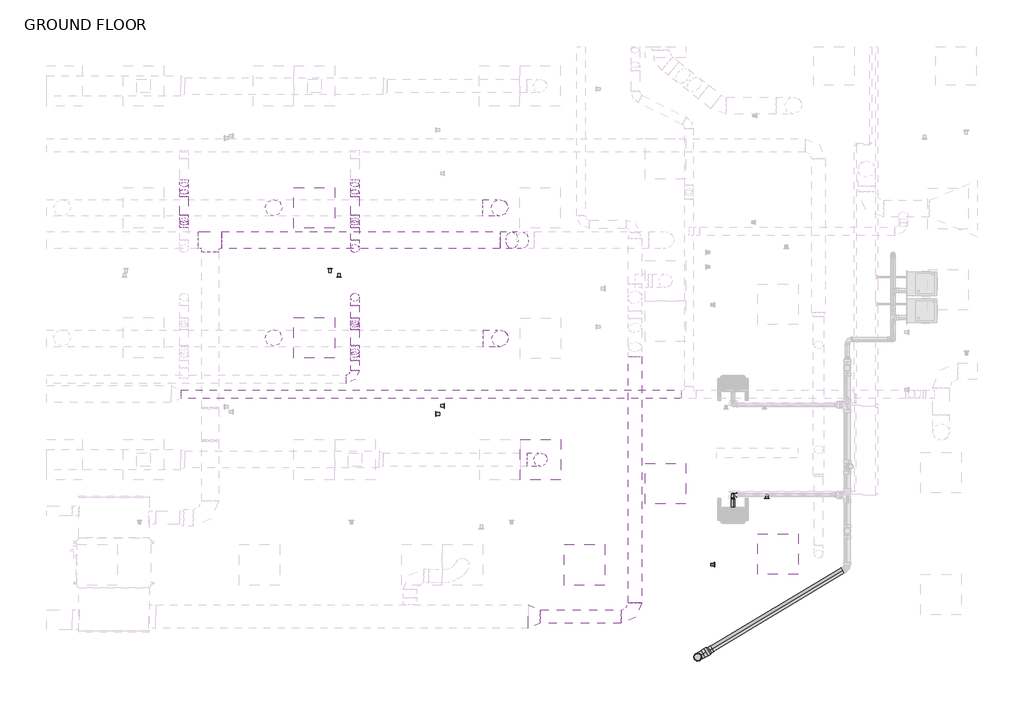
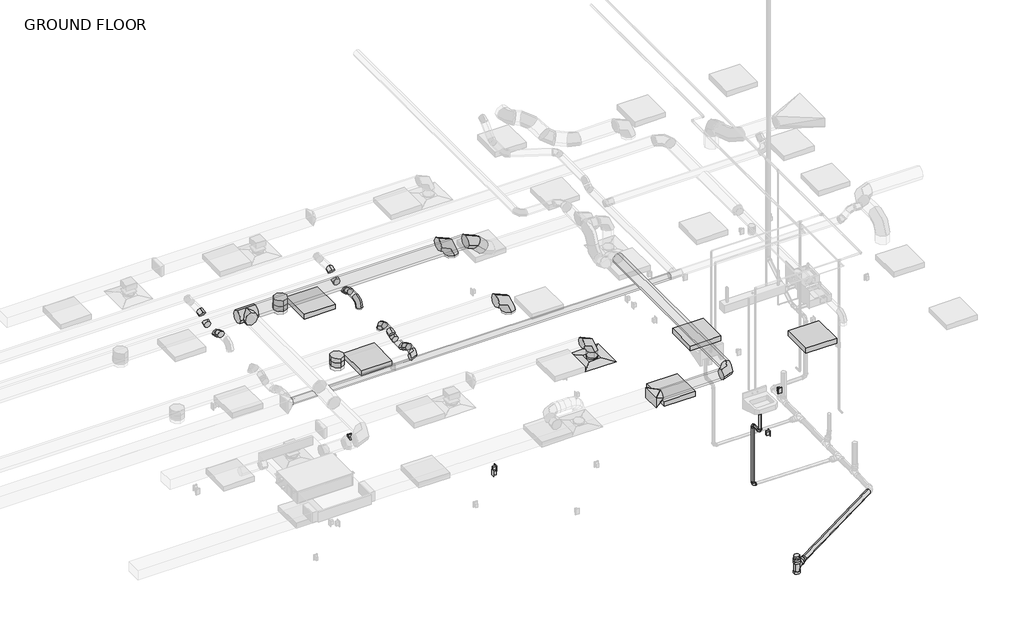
# One storey, part 6 of 21: 24 duct fittings, 24 duct segments, 6 pipe fittings, 5 light fixtures, 5 proxies, 4 pipe segments, 1 air terminal, 1 switching device.
"""IFC4 building model written with IfcOpenShell, lengths in millimetres."""

from ifc_helpers import new_model, si_unit, point, frame, frame_2d, origin, place, context, project, spatial, circle_curve, trimmed, segment, composite_curve, outline, extrude, transform, mapped, element, save
from components import air_terminal_e9020785, duplex_receptacle_countertop_10251bba, rectangular_to_round_transition_angle_45_degree_3a9c6b82, round_elbow_1_d_a253342a, round_elbow_1_d_6fec3262, round_elbow_1_d_c80420c1, round_elbow_1_d_e3dc691b, round_elbow_1_d_ea3dccb8, round_elbow_1_d_538d8ec8, round_takeoff_standard_161717b3, round_takeoff_standard_c386a54e, round_tee_standard_9beeffc8, troffer_corner_insert_2x2_3lamp_e67c7f8f, bend_pvc_sch_40_dwv_standard_56513ac6, bend_pvc_sch_40_dwv_standard_370f4fae, reducer_pvc_sch_40_dwv_standard_58c00515, reducer_pvc_sch_40_dwv_standard_880e498f, tee_sanitary_pvc_sch_40_dwv_standard_6eba9932

model = new_model("IFC4")

# Units and contexts
model_context = context("Model", 3, world=origin())
ifc_project = project(units=[si_unit("LENGTHUNIT", "METRE", prefix="MILLI")], contexts=[model_context])

# Site, building, storey
site = spatial("IfcSite", under=ifc_project)
building = spatial("IfcBuilding", under=site)
storey = spatial("IfcBuildingStorey", under=building, Name="GROUND FLOOR", Elevation=30480.0)

# Air terminal
placement = place(None, origin())
air_terminal_shape = air_terminal_e9020785(model_context)
element("IfcAirTerminal", 1, ObjectType="Supply Diffuser - Rectangular Face Round Neck - Hosted : 24\"x24\" Face 8\" Neck - Hosted", at=placement, inside=storey, context=model_context, shape_type="MappedRepresentation", body=[
    mapped(air_terminal_shape, transform((8335.3295393, -4228.1054995, 33223.2), x_axis=(0.0, -1.0, 0.0), y_axis=(-1.0, 0.0, 0.0), z_axis=(0.0, 0.0, -1.0))),
])

# Proxies
duplex_receptacle_countertop_shape = duplex_receptacle_countertop_10251bba(model_context)
element("IfcBuildingElementProxy", 2, Name="Duplex Receptacle : GFCI", ObjectType="Duplex Receptacle : GFCI", at=placement, inside=storey, context=model_context, shape_type="MappedRepresentation", body=[
    mapped(duplex_receptacle_countertop_shape, transform((11730.8076286, -4809.1304995, 31699.2), x_axis=(1.0, 0.0, 0.0), y_axis=(0.0, 0.0, 1.0), z_axis=(0.0, -1.0, 0.0))),
])
element("IfcBuildingElementProxy", 3, Name="Duplex Receptacle : Standard", ObjectType="Duplex Receptacle : Standard", at=placement, inside=storey, context=model_context, shape_type="MappedRepresentation", body=[
    mapped(duplex_receptacle_countertop_shape, transform((5306.9139298, -1484.9054995, 30937.2), x_axis=(1.0, 0.0, 0.0), y_axis=(0.0, 0.0, 1.0), z_axis=(0.0, -1.0, 0.0))),
])
element("IfcBuildingElementProxy", 4, Name="Duplex Receptacle : Standard", ObjectType="Duplex Receptacle : Standard", at=placement, inside=storey, context=model_context, shape_type="MappedRepresentation", body=[
    mapped(duplex_receptacle_countertop_shape, transform((6763.7045393, -3542.8977984, 30937.2), x_axis=(0.0, -1.0, 0.0), y_axis=(0.0, 0.0, 1.0), z_axis=(-1.0, 0.0, 0.0))),
])
element("IfcBuildingElementProxy", 5, Name="Duplex Receptacle : Standard", ObjectType="Duplex Receptacle : Standard", at=placement, inside=storey, context=model_context, shape_type="MappedRepresentation", body=[
    mapped(duplex_receptacle_countertop_shape, transform((6887.5295393, -3421.6832557, 30937.2), x_axis=(0.0, 1.0, 0.0), y_axis=(0.0, 0.0, 1.0), z_axis=(1.0, 0.0, 0.0))),
])
element("IfcBuildingElementProxy", 6, Name="Duplex Receptacle : Standard", ObjectType="Duplex Receptacle : Standard", at=placement, inside=storey, context=model_context, shape_type="MappedRepresentation", body=[
    mapped(duplex_receptacle_countertop_shape, transform((5174.6798832, -1361.0804995, 30937.2), x_axis=(-1.0, 0.0, 0.0), y_axis=(0.0, 0.0, 1.0), z_axis=(0.0, 1.0, 0.0))),
])

# Duct fittings
rectangular_to_round_transition_angle_45_degree_shape = rectangular_to_round_transition_angle_45_degree_3a9c6b82(model_context)
element("IfcDuctFitting", 7, ObjectType="Rectangular to Round Transition - Angle : 45 Degree", at=placement, inside=storey, context=model_context, shape_type="MappedRepresentation", body=[
    mapped(rectangular_to_round_transition_angle_45_degree_shape, transform((8148.4082034, -6584.4850038, 33877.25), x_axis=(1.0, 0.0, 0.0), y_axis=(0.0, 1.0, 0.0), z_axis=(0.0, 0.0, 1.0))),
])
round_elbow_1_d_shape = round_elbow_1_d_a253342a(model_context)
element("IfcDuctFitting", 8, ObjectType="Round Elbow : 1 D", at=placement, inside=storey, context=model_context, shape_type="MappedRepresentation", body=[
    mapped(round_elbow_1_d_shape, transform((9751.3795393, -6584.4850038, 33877.25), x_axis=(1.0, 0.0, 0.0), y_axis=(0.0, 1.0, 0.0), z_axis=(0.0, 0.0, 1.0))),
])
element("IfcDuctFitting", 9, ObjectType="Round Elbow : 1 D", at=placement, inside=storey, context=model_context, shape_type="MappedRepresentation", body=[
    mapped(round_elbow_1_d_shape, transform((8335.3295393, -4228.1054995, 33604.2), x_axis=(0.0, 0.0, 1.0), y_axis=(-1.0, 0.0, 0.0), z_axis=(0.0, -1.0, 0.0))),
])
round_elbow_1_d_2_shape = round_elbow_1_d_6fec3262(model_context)
element("IfcDuctFitting", 10, ObjectType="Round Elbow : 1 D", at=placement, inside=storey, context=model_context, shape_type="MappedRepresentation", body=[
    mapped(round_elbow_1_d_2_shape, transform((7725.7295393, -2407.6759121, 33617.69375), x_axis=(0.0, 0.0, 1.0), y_axis=(-1.0, 0.0, 0.0), z_axis=(0.0, -1.0, 0.0))),
])
element("IfcDuctFitting", 11, ObjectType="Round Elbow : 1 D", at=placement, inside=storey, context=model_context, shape_type="MappedRepresentation", body=[
    mapped(round_elbow_1_d_2_shape, transform((7719.2671727, -446.6804995, 33617.69375), x_axis=(0.0, 0.0, 1.0), y_axis=(-1.0, 0.0, 0.0), z_axis=(0.0, -1.0, 0.0))),
])
round_elbow_1_d_3_shape = round_elbow_1_d_c80420c1(model_context)
element("IfcDuctFitting", 12, ObjectType="Round Elbow : 1 D", at=placement, inside=storey, context=model_context, shape_type="MappedRepresentation", body=[
    mapped(round_elbow_1_d_3_shape, transform((5547.6681472, -3019.0145579, 33528.0), x_axis=(1.0, 0.0, 0.0), y_axis=(0.0, 1.0, 0.0), z_axis=(0.0, 0.0, 1.0))),
])
element("IfcDuctFitting", 13, ObjectType="Round Elbow : 1 D", at=placement, inside=storey, context=model_context, shape_type="MappedRepresentation", body=[
    mapped(round_elbow_1_d_3_shape, transform((5547.6681472, -1789.7054995, 33477.2), x_axis=(0.0, 0.0, 1.0), y_axis=(0.0, -1.0, 0.0), z_axis=(1.0, 0.0, 0.0))),
])
element("IfcDuctFitting", 14, ObjectType="Round Elbow : 1 D", at=placement, inside=storey, context=model_context, shape_type="MappedRepresentation", body=[
    mapped(round_elbow_1_d_3_shape, transform((5547.6681472, -1056.2804995, 33477.2), x_axis=(0.0, -1.0, 0.0), y_axis=(0.0, 0.0, -1.0), z_axis=(1.0, 0.0, 0.0))),
])
round_elbow_1_d_4_shape = round_elbow_1_d_e3dc691b(model_context)
element("IfcDuctFitting", 15, ObjectType="Round Elbow : 1 D", at=placement, inside=storey, context=model_context, shape_type="MappedRepresentation", body=[
    mapped(round_elbow_1_d_4_shape, transform((5547.6681472, -2571.0260053, 33410.2114474), x_axis=(0.0, 0.7071067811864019, -0.7071067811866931), y_axis=(0.0, 0.7071067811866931, 0.7071067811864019), z_axis=(1.0, 0.0, 0.0))),
])
element("IfcDuctFitting", 16, ObjectType="Round Elbow : 1 D", at=placement, inside=storey, context=model_context, shape_type="MappedRepresentation", body=[
    mapped(round_elbow_1_d_4_shape, transform((5547.6681472, -2688.8145579, 33528.0), x_axis=(0.0, -0.7071067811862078, 0.7071067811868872), y_axis=(0.0, -0.7071067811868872, -0.7071067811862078), z_axis=(1.0, 0.0, 0.0))),
])
round_elbow_1_d_5_shape = round_elbow_1_d_ea3dccb8(model_context)
element("IfcDuctFitting", 17, ObjectType="Round Elbow : 1 D", at=placement, inside=storey, context=model_context, shape_type="MappedRepresentation", body=[
    mapped(round_elbow_1_d_5_shape, transform((7831.7019534, -932.4554995, 33883.6), x_axis=(1.0, 0.0, 0.0), y_axis=(0.0, 0.0, -1.0), z_axis=(0.0, 1.0, 0.0))),
])
round_elbow_1_d_6_shape = round_elbow_1_d_538d8ec8(model_context)
element("IfcDuctFitting", 18, ObjectType="Round Elbow : 1 D", at=placement, inside=storey, context=model_context, shape_type="MappedRepresentation", body=[
    mapped(round_elbow_1_d_6_shape, transform((2982.2795393, -703.4357216, 33477.2), x_axis=(0.0, 1.0, 0.0), y_axis=(0.0, 0.0, -1.0), z_axis=(-1.0, 0.0, 0.0))),
])
element("IfcDuctFitting", 19, ObjectType="Round Elbow : 1 D", at=placement, inside=storey, context=model_context, shape_type="MappedRepresentation", body=[
    mapped(round_elbow_1_d_6_shape, transform((2982.2795393, -599.403412, 33404.3557926), x_axis=(0.0, 0.8191520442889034, -0.5735764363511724), y_axis=(0.0, 0.5735764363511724, 0.8191520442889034), z_axis=(1.0, 0.0, 0.0))),
])
element("IfcDuctFitting", 20, ObjectType="Round Elbow : 1 D", at=placement, inside=storey, context=model_context, shape_type="MappedRepresentation", body=[
    mapped(round_elbow_1_d_6_shape, transform((2982.2795393, -240.3054995, 33404.3557926), x_axis=(0.0, 1.0, 0.0), y_axis=(0.0, 0.0, 1.0), z_axis=(1.0, 0.0, 0.0))),
])
element("IfcDuctFitting", 21, ObjectType="Round Elbow : 1 D", at=placement, inside=storey, context=model_context, shape_type="MappedRepresentation", body=[
    mapped(round_elbow_1_d_6_shape, transform((2982.2795393, -63.7232711, 33528.0), x_axis=(0.0, 0.8191520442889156, 0.5735764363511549), y_axis=(0.0, 0.5735764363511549, -0.8191520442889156), z_axis=(-1.0, 0.0, 0.0))),
])
element("IfcDuctFitting", 22, ObjectType="Round Elbow : 1 D", at=placement, inside=storey, context=model_context, shape_type="MappedRepresentation", body=[
    mapped(round_elbow_1_d_6_shape, transform((5547.6681472, -599.403412, 33404.3557926), x_axis=(0.0, 0.8191520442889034, -0.5735764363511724), y_axis=(0.0, 0.5735764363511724, 0.8191520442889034), z_axis=(1.0, 0.0, 0.0))),
])
element("IfcDuctFitting", 23, ObjectType="Round Elbow : 1 D", at=placement, inside=storey, context=model_context, shape_type="MappedRepresentation", body=[
    mapped(round_elbow_1_d_6_shape, transform((5547.6681472, -240.3054995, 33404.3557926), x_axis=(0.0, 1.0, 0.0), y_axis=(0.0, 0.0, 1.0), z_axis=(1.0, 0.0, 0.0))),
])
element("IfcDuctFitting", 24, ObjectType="Round Elbow : 1 D", at=placement, inside=storey, context=model_context, shape_type="MappedRepresentation", body=[
    mapped(round_elbow_1_d_6_shape, transform((5547.6681472, -63.7232711, 33528.0), x_axis=(0.0, 0.8191520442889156, 0.5735764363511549), y_axis=(0.0, 0.5735764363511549, -0.8191520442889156), z_axis=(-1.0, 0.0, 0.0))),
])
element("IfcDuctFitting", 25, ObjectType="Round Elbow : 1 D", at=placement, inside=storey, context=model_context, shape_type="MappedRepresentation", body=[
    mapped(round_elbow_1_d_6_shape, transform((5547.6681472, -2238.2198452, 33410.2114474), x_axis=(0.0, -0.8191520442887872, -0.5735764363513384), y_axis=(0.0, -0.5735764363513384, 0.8191520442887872), z_axis=(-1.0, 0.0, 0.0))),
])
element("IfcDuctFitting", 26, ObjectType="Round Elbow : 1 D", at=placement, inside=storey, context=model_context, shape_type="MappedRepresentation", body=[
    mapped(round_elbow_1_d_6_shape, transform((5547.6681472, -2142.5502773, 33477.2), x_axis=(0.0, 0.8191520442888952, 0.5735764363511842), y_axis=(0.0, 0.5735764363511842, -0.8191520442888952), z_axis=(-1.0, 0.0, 0.0))),
])
element("IfcDuctFitting", 27, ObjectType="Round Elbow : 1 D", at=placement, inside=storey, context=model_context, shape_type="MappedRepresentation", body=[
    mapped(round_elbow_1_d_6_shape, transform((5547.6681472, -703.4357216, 33477.2), x_axis=(0.0, -0.8191520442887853, 0.573576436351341), y_axis=(0.0, -0.573576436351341, -0.8191520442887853), z_axis=(1.0, 0.0, 0.0))),
])
round_takeoff_standard_shape = round_takeoff_standard_161717b3(model_context)
element("IfcDuctFitting", 28, ObjectType="Round Takeoff : Standard", at=placement, inside=storey, context=model_context, shape_type="MappedRepresentation", body=[
    mapped(round_takeoff_standard_shape, transform((4328.4681472, -2399.3054995, 33490.969892), x_axis=(0.0, 0.0, -1.0), y_axis=(-1.0, 0.0, 0.0), z_axis=(0.0, 1.0, 0.0))),
])
round_takeoff_standard_2_shape = round_takeoff_standard_c386a54e(model_context)
element("IfcDuctFitting", 29, ObjectType="Round Takeoff : Standard", at=placement, inside=storey, context=model_context, shape_type="MappedRepresentation", body=[
    mapped(round_takeoff_standard_2_shape, transform((4328.4681472, -446.6804995, 33490.69375), x_axis=(0.0, 0.0, -1.0), y_axis=(-1.0, 0.0, 0.0), z_axis=(0.0, 1.0, 0.0))),
])
round_tee_standard_shape = round_tee_standard_9beeffc8(model_context)
element("IfcDuctFitting", 30, ObjectType="Round Tee : Standard", at=placement, inside=storey, context=model_context, shape_type="MappedRepresentation", body=[
    mapped(round_tee_standard_shape, transform((3373.2082034, -932.4554995, 33883.6), x_axis=(1.0, 0.0, 0.0), y_axis=(0.0, 1.0, 0.0), z_axis=(0.0, 0.0, 1.0))),
])

# Duct segments
element("IfcDuctSegment", 31, ObjectType="Taps / Short Radius", at=placement, inside=storey, context=model_context, shape_type="SweptSolid", body=[
    extrude(outline(composite_curve([segment(trimmed(circle_curve(frame_2d((-6584.4850038, 33877.25)), 101.6), [point((-6686.0850038, 33877.25))], [point((-6584.4850038, 33978.85))], False, "CARTESIAN"), True, "CONTINUOUS"), segment(trimmed(circle_curve(frame_2d((-6584.4850038, 33877.25)), 101.6), [point((-6584.4850038, 33978.85))], [point((-6482.8850038, 33877.25))], False, "CARTESIAN"), True, "CONTINUOUS"), segment(trimmed(circle_curve(frame_2d((-6584.4850038, 33877.25)), 101.6), [point((-6482.8850038, 33877.25))], [point((-6584.4850038, 33775.65))], False, "CARTESIAN"), True, "CONTINUOUS"), segment(trimmed(circle_curve(frame_2d((-6584.4850038, 33877.25)), 101.6), [point((-6584.4850038, 33775.65))], [point((-6686.0850038, 33877.25))], False, "CARTESIAN"), True, "CONTINUOUS")], self_intersect=False)), frame((8332.3712769, 0.0, 0.0), z_axis=(1.0, 0.0, 0.0), x_axis=(0.0, 1.0, 0.0)), (0.0, 0.0, 1.0), 1215.8082624),
])
element("IfcDuctSegment", 32, ObjectType="Taps / Short Radius", at=placement, inside=storey, context=model_context, shape_type="SweptSolid", body=[
    extrude(outline(composite_curve([segment(trimmed(circle_curve(frame_2d((8335.3295393, -4228.1054995)), 101.6), [point((8335.3295393, -4126.5054995))], [point((8436.9295393, -4228.1054995))], False, "CARTESIAN"), True, "CONTINUOUS"), segment(trimmed(circle_curve(frame_2d((8335.3295393, -4228.1054995)), 101.6), [point((8436.9295393, -4228.1054995))], [point((8335.3295393, -4329.7054995))], False, "CARTESIAN"), True, "CONTINUOUS"), segment(trimmed(circle_curve(frame_2d((8335.3295393, -4228.1054995)), 101.6), [point((8335.3295393, -4329.7054995))], [point((8233.7295393, -4228.1054995))], False, "CARTESIAN"), True, "CONTINUOUS"), segment(trimmed(circle_curve(frame_2d((8335.3295393, -4228.1054995)), 101.6), [point((8233.7295393, -4228.1054995))], [point((8335.3295393, -4126.5054995))], False, "CARTESIAN"), True, "CONTINUOUS")], self_intersect=False)), frame((0.0, 0.0, 33277.175), z_axis=(0.0, 0.0, 1.0), x_axis=(1.0, 0.0, 0.0)), (0.0, 0.0, 1.0), 123.825),
])
element("IfcDuctSegment", 33, ObjectType="Taps / Short Radius", at=placement, inside=storey, context=model_context, shape_type="SweptSolid", body=[
    extrude(outline(composite_curve([segment(trimmed(circle_curve(frame_2d((-932.4554995, 33883.6)), 127.0), [point((-1059.4554995, 33883.6))], [point((-932.4554995, 34010.6))], False, "CARTESIAN"), True, "CONTINUOUS"), segment(trimmed(circle_curve(frame_2d((-932.4554995, 33883.6)), 127.0), [point((-932.4554995, 34010.6))], [point((-805.4554995, 33883.6))], False, "CARTESIAN"), True, "CONTINUOUS"), segment(trimmed(circle_curve(frame_2d((-932.4554995, 33883.6)), 127.0), [point((-805.4554995, 33883.6))], [point((-932.4554995, 33756.6))], False, "CARTESIAN"), True, "CONTINUOUS"), segment(trimmed(circle_curve(frame_2d((-932.4554995, 33883.6)), 127.0), [point((-932.4554995, 33756.6))], [point((-1059.4554995, 33883.6))], False, "CARTESIAN"), True, "CONTINUOUS")], self_intersect=False)), frame((3551.0082034, 0.0, 0.0), z_axis=(1.0, 0.0, 0.0), x_axis=(0.0, 1.0, 0.0)), (0.0, 0.0, 1.0), 4175.4835052),
])
element("IfcDuctSegment", 34, ObjectType="Taps / Short Radius", at=placement, inside=storey, context=model_context, shape_type="SweptSolid", body=[
    extrude(outline(composite_curve([segment(trimmed(circle_curve(frame_2d((0.0, -127.0)), 127.0), [point((0.0, -254.0))], [point((-127.0, -127.0))], False, "CARTESIAN"), True, "CONTINUOUS"), segment(trimmed(circle_curve(frame_2d((0.0, -127.0)), 127.0), [point((-127.0, -127.0))], [point((0.0, 0.0))], False, "CARTESIAN"), True, "CONTINUOUS"), segment(trimmed(circle_curve(frame_2d((0.0, -127.0)), 127.0), [point((0.0, 0.0))], [point((127.0, -127.0))], False, "CARTESIAN"), True, "CONTINUOUS"), segment(trimmed(circle_curve(frame_2d((0.0, -127.0)), 127.0), [point((127.0, -127.0))], [point((0.0, -254.0))], False, "CARTESIAN"), True, "CONTINUOUS")], self_intersect=False)), frame((8062.1070759, -805.4554995, 33653.1948776), z_axis=(-0.7071067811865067, 0.0, 0.7071067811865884), x_axis=(0.7071067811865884, 0.0, 0.7071067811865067)), (0.0, 0.0, 1.0), 220.6318041),
])
element("IfcDuctSegment", 35, ObjectType="Taps / Short Radius", at=placement, inside=storey, context=model_context, shape_type="SweptSolid", body=[
    extrude(outline(composite_curve([segment(trimmed(circle_curve(frame_2d((4328.4681472, -2399.3054995)), 127.0), [point((4201.4681472, -2399.3054995))], [point((4328.4681472, -2272.3054995))], False, "CARTESIAN"), True, "CONTINUOUS"), segment(trimmed(circle_curve(frame_2d((4328.4681472, -2399.3054995)), 127.0), [point((4328.4681472, -2272.3054995))], [point((4455.4681472, -2399.3054995))], False, "CARTESIAN"), True, "CONTINUOUS"), segment(trimmed(circle_curve(frame_2d((4328.4681472, -2399.3054995)), 127.0), [point((4455.4681472, -2399.3054995))], [point((4328.4681472, -2526.3054995))], False, "CARTESIAN"), True, "CONTINUOUS"), segment(trimmed(circle_curve(frame_2d((4328.4681472, -2399.3054995)), 127.0), [point((4328.4681472, -2526.3054995))], [point((4201.4681472, -2399.3054995))], False, "CARTESIAN"), True, "CONTINUOUS")], self_intersect=False)), frame((0.0, 0.0, 33324.8), z_axis=(0.0, 0.0, 1.0), x_axis=(1.0, 0.0, 0.0)), (0.0, 0.0, 1.0), 64.569892),
])
element("IfcDuctSegment", 36, ObjectType="Taps / Short Radius", at=placement, inside=storey, context=model_context, shape_type="SweptSolid", body=[
    extrude(outline(composite_curve([segment(trimmed(circle_curve(frame_2d((7725.7295393, -2407.6759121)), 127.0), [point((7725.7295393, -2280.6759121))], [point((7852.7295393, -2407.6759121))], False, "CARTESIAN"), True, "CONTINUOUS"), segment(trimmed(circle_curve(frame_2d((7725.7295393, -2407.6759121)), 127.0), [point((7852.7295393, -2407.6759121))], [point((7725.7295393, -2534.6759121))], False, "CARTESIAN"), True, "CONTINUOUS"), segment(trimmed(circle_curve(frame_2d((7725.7295393, -2407.6759121)), 127.0), [point((7725.7295393, -2534.6759121))], [point((7598.7295393, -2407.6759121))], False, "CARTESIAN"), True, "CONTINUOUS"), segment(trimmed(circle_curve(frame_2d((7725.7295393, -2407.6759121)), 127.0), [point((7598.7295393, -2407.6759121))], [point((7725.7295393, -2280.6759121))], False, "CARTESIAN"), True, "CONTINUOUS")], self_intersect=False)), frame((0.0, 0.0, 33324.8), z_axis=(0.0, 0.0, 1.0), x_axis=(1.0, 0.0, 0.0)), (0.0, 0.0, 1.0), 38.89375),
])
element("IfcDuctSegment", 37, ObjectType="Taps / Short Radius", at=placement, inside=storey, context=model_context, shape_type="SweptSolid", body=[
    extrude(outline(composite_curve([segment(trimmed(circle_curve(frame_2d((7719.2671727, -446.6804995)), 127.0), [point((7719.2671727, -319.6804995))], [point((7846.2671727, -446.6804995))], False, "CARTESIAN"), True, "CONTINUOUS"), segment(trimmed(circle_curve(frame_2d((7719.2671727, -446.6804995)), 127.0), [point((7846.2671727, -446.6804995))], [point((7719.2671727, -573.6804995))], False, "CARTESIAN"), True, "CONTINUOUS"), segment(trimmed(circle_curve(frame_2d((7719.2671727, -446.6804995)), 127.0), [point((7719.2671727, -573.6804995))], [point((7592.2671727, -446.6804995))], False, "CARTESIAN"), True, "CONTINUOUS"), segment(trimmed(circle_curve(frame_2d((7719.2671727, -446.6804995)), 127.0), [point((7592.2671727, -446.6804995))], [point((7719.2671727, -319.6804995))], False, "CARTESIAN"), True, "CONTINUOUS")], self_intersect=False)), frame((0.0, 0.0, 33324.8), z_axis=(0.0, 0.0, 1.0), x_axis=(1.0, 0.0, 0.0)), (0.0, 0.0, 1.0), 38.89375),
])
element("IfcDuctSegment", 38, ObjectType="Taps / Short Radius", at=placement, inside=storey, context=model_context, shape_type="SweptSolid", body=[
    extrude(outline(composite_curve([segment(trimmed(circle_curve(frame_2d((4328.4681472, -446.6804995)), 127.0), [point((4201.4681472, -446.6804995))], [point((4328.4681472, -319.6804995))], False, "CARTESIAN"), True, "CONTINUOUS"), segment(trimmed(circle_curve(frame_2d((4328.4681472, -446.6804995)), 127.0), [point((4328.4681472, -319.6804995))], [point((4455.4681472, -446.6804995))], False, "CARTESIAN"), True, "CONTINUOUS"), segment(trimmed(circle_curve(frame_2d((4328.4681472, -446.6804995)), 127.0), [point((4455.4681472, -446.6804995))], [point((4328.4681472, -573.6804995))], False, "CARTESIAN"), True, "CONTINUOUS"), segment(trimmed(circle_curve(frame_2d((4328.4681472, -446.6804995)), 127.0), [point((4328.4681472, -573.6804995))], [point((4201.4681472, -446.6804995))], False, "CARTESIAN"), True, "CONTINUOUS")], self_intersect=False)), frame((0.0, 0.0, 33324.8), z_axis=(0.0, 0.0, 1.0), x_axis=(1.0, 0.0, 0.0)), (0.0, 0.0, 1.0), 64.29375),
])
element("IfcDuctSegment", 39, ObjectType="Taps / Short Radius", at=placement, inside=storey, context=model_context, shape_type="SweptSolid", body=[
    extrude(outline(composite_curve([segment(trimmed(circle_curve(frame_2d((-3245.6216457, 33602.867541)), 63.5), [point((-3309.1216457, 33602.867541))], [point((-3245.6216457, 33666.367541))], False, "CARTESIAN"), True, "CONTINUOUS"), segment(trimmed(circle_curve(frame_2d((-3245.6216457, 33602.867541)), 63.5), [point((-3245.6216457, 33666.367541))], [point((-3182.1216457, 33602.867541))], False, "CARTESIAN"), True, "CONTINUOUS"), segment(trimmed(circle_curve(frame_2d((-3245.6216457, 33602.867541)), 63.5), [point((-3182.1216457, 33602.867541))], [point((-3245.6216457, 33539.367541))], False, "CARTESIAN"), True, "CONTINUOUS"), segment(trimmed(circle_curve(frame_2d((-3245.6216457, 33602.867541)), 63.5), [point((-3245.6216457, 33539.367541))], [point((-3309.1216457, 33602.867541))], False, "CARTESIAN"), True, "CONTINUOUS")], self_intersect=False)), frame((2940.5577502, 0.0, 0.0), z_axis=(1.0, 0.0, 0.0), x_axis=(0.0, 1.0, 0.0)), (0.0, 0.0, 1.0), 7505.7),
])
element("IfcDuctSegment", 40, ObjectType="Taps / Short Radius", at=placement, inside=storey, context=model_context, shape_type="SweptSolid", body=[
    extrude(outline(composite_curve([segment(trimmed(circle_curve(frame_2d((0.0, -63.5)), 63.5), [point((63.5, -63.5))], [point((0.0, -127.0000001))], False, "CARTESIAN"), True, "CONTINUOUS"), segment(trimmed(circle_curve(frame_2d((0.0, -63.5)), 63.5), [point((0.0, -127.0000001))], [point((-63.5, -63.5))], False, "CARTESIAN"), True, "CONTINUOUS"), segment(trimmed(circle_curve(frame_2d((0.0, -63.5)), 63.5), [point((-63.5, -63.5))], [point((0.0, 0.0))], False, "CARTESIAN"), True, "CONTINUOUS"), segment(trimmed(circle_curve(frame_2d((0.0, -63.5)), 63.5), [point((0.0, 0.0))], [point((63.5, -63.5))], False, "CARTESIAN"), True, "CONTINUOUS")], self_intersect=False)), frame((2982.2795393, -595.7825695, 33479.3396378), z_axis=(0.0, -0.8191520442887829, 0.5735764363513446), x_axis=(1.0, 0.0, 0.0)), (0.0, 0.0, 1.0), 46.9141076),
])
element("IfcDuctSegment", 41, ObjectType="Taps / Short Radius", at=placement, inside=storey, context=model_context, shape_type="SweptSolid", body=[
    extrude(outline(composite_curve([segment(trimmed(circle_curve(frame_2d((33404.3557926, 2982.2795393)), 63.5), [point((33404.3557926, 3045.7795393))], [point((33467.8557926, 2982.2795393))], False, "CARTESIAN"), True, "CONTINUOUS"), segment(trimmed(circle_curve(frame_2d((33404.3557926, 2982.2795393)), 63.5), [point((33467.8557926, 2982.2795393))], [point((33404.3557926, 2918.7795393))], False, "CARTESIAN"), True, "CONTINUOUS"), segment(trimmed(circle_curve(frame_2d((33404.3557926, 2982.2795393)), 63.5), [point((33404.3557926, 2918.7795393))], [point((33340.8557926, 2982.2795393))], False, "CARTESIAN"), True, "CONTINUOUS"), segment(trimmed(circle_curve(frame_2d((33404.3557926, 2982.2795393)), 63.5), [point((33340.8557926, 2982.2795393))], [point((33404.3557926, 3045.7795393))], False, "CARTESIAN"), True, "CONTINUOUS")], self_intersect=False)), frame((0.0, -559.3604658, 0.0), z_axis=(0.0, 1.0, 0.0), x_axis=(0.0, 0.0, 1.0)), (0.0, 0.0, 1.0), 279.0120202),
])
element("IfcDuctSegment", 42, ObjectType="Taps / Short Radius", at=placement, inside=storey, context=model_context, shape_type="SweptSolid", body=[
    extrude(outline(composite_curve([segment(trimmed(circle_curve(frame_2d((0.0, 63.5)), 63.5), [point((63.5, 63.5))], [point((0.0, 0.0))], False, "CARTESIAN"), True, "CONTINUOUS"), segment(trimmed(circle_curve(frame_2d((0.0, 63.5)), 63.5), [point((0.0, 0.0))], [point((-63.5, 63.5))], False, "CARTESIAN"), True, "CONTINUOUS"), segment(trimmed(circle_curve(frame_2d((0.0, 63.5)), 63.5), [point((-63.5, 63.5))], [point((0.0, 127.0000001))], False, "CARTESIAN"), True, "CONTINUOUS"), segment(trimmed(circle_curve(frame_2d((0.0, 63.5)), 63.5), [point((0.0, 127.0000001))], [point((63.5, 63.5))], False, "CARTESIAN"), True, "CONTINUOUS")], self_intersect=False)), frame((2982.2795393, -243.926342, 33479.3396378), z_axis=(0.0, 0.81915204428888, 0.5735764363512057), x_axis=(1.0, 0.0, 0.0)), (0.0, 0.0, 1.0), 135.4812048),
])
element("IfcDuctSegment", 43, ObjectType="Taps / Short Radius", at=placement, inside=storey, context=model_context, shape_type="SweptSolid", body=[
    extrude(outline(composite_curve([segment(trimmed(circle_curve(frame_2d((0.0, -63.5)), 63.5), [point((63.5, -63.5))], [point((0.0, -127.0000001))], False, "CARTESIAN"), True, "CONTINUOUS"), segment(trimmed(circle_curve(frame_2d((0.0, -63.5)), 63.5), [point((0.0, -127.0000001))], [point((-63.5, -63.5))], False, "CARTESIAN"), True, "CONTINUOUS"), segment(trimmed(circle_curve(frame_2d((0.0, -63.5)), 63.5), [point((-63.5, -63.5))], [point((0.0, 0.0))], False, "CARTESIAN"), True, "CONTINUOUS"), segment(trimmed(circle_curve(frame_2d((0.0, -63.5)), 63.5), [point((0.0, 0.0))], [point((63.5, -63.5))], False, "CARTESIAN"), True, "CONTINUOUS")], self_intersect=False)), frame((5547.6681472, -595.7825695, 33479.3396378), z_axis=(0.0, -0.819152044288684, 0.5735764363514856), x_axis=(1.0, 0.0, 0.0)), (0.0, 0.0, 1.0), 46.9141076),
])
element("IfcDuctSegment", 44, ObjectType="Taps / Short Radius", at=placement, inside=storey, context=model_context, shape_type="SweptSolid", body=[
    extrude(outline(composite_curve([segment(trimmed(circle_curve(frame_2d((33404.3557926, 5547.6681472)), 63.5), [point((33404.3557926, 5611.1681472))], [point((33467.8557926, 5547.6681472))], False, "CARTESIAN"), True, "CONTINUOUS"), segment(trimmed(circle_curve(frame_2d((33404.3557926, 5547.6681472)), 63.5), [point((33467.8557926, 5547.6681472))], [point((33404.3557926, 5484.1681472))], False, "CARTESIAN"), True, "CONTINUOUS"), segment(trimmed(circle_curve(frame_2d((33404.3557926, 5547.6681472)), 63.5), [point((33404.3557926, 5484.1681472))], [point((33340.8557926, 5547.6681472))], False, "CARTESIAN"), True, "CONTINUOUS"), segment(trimmed(circle_curve(frame_2d((33404.3557926, 5547.6681472)), 63.5), [point((33340.8557926, 5547.6681472))], [point((33404.3557926, 5611.1681472))], False, "CARTESIAN"), True, "CONTINUOUS")], self_intersect=False)), frame((0.0, -559.3604658, 0.0), z_axis=(0.0, 1.0, 0.0), x_axis=(0.0, 0.0, 1.0)), (0.0, 0.0, 1.0), 279.0120202),
])
element("IfcDuctSegment", 45, ObjectType="Taps / Short Radius", at=placement, inside=storey, context=model_context, shape_type="SweptSolid", body=[
    extrude(outline(composite_curve([segment(trimmed(circle_curve(frame_2d((0.0, 63.5)), 63.5), [point((63.5, 63.5))], [point((0.0, 0.0))], False, "CARTESIAN"), True, "CONTINUOUS"), segment(trimmed(circle_curve(frame_2d((0.0, 63.5)), 63.5), [point((0.0, 0.0))], [point((-63.5, 63.5))], False, "CARTESIAN"), True, "CONTINUOUS"), segment(trimmed(circle_curve(frame_2d((0.0, 63.5)), 63.5), [point((-63.5, 63.5))], [point((0.0, 127.0000001))], False, "CARTESIAN"), True, "CONTINUOUS"), segment(trimmed(circle_curve(frame_2d((0.0, 63.5)), 63.5), [point((0.0, 127.0000001))], [point((63.5, 63.5))], False, "CARTESIAN"), True, "CONTINUOUS")], self_intersect=False)), frame((5547.6681472, -243.926342, 33479.3396378), z_axis=(0.0, 0.8191520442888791, 0.5735764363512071), x_axis=(1.0, 0.0, 0.0)), (0.0, 0.0, 1.0), 135.4812048),
])
element("IfcDuctSegment", 46, ObjectType="Taps / Short Radius", at=placement, inside=storey, context=model_context, shape_type="SweptSolid", body=[
    extrude(outline(composite_curve([segment(trimmed(circle_curve(frame_2d((0.0, -63.5)), 63.5), [point((-63.5, -63.5))], [point((0.0, 0.0))], False, "CARTESIAN"), True, "CONTINUOUS"), segment(trimmed(circle_curve(frame_2d((0.0, -63.5)), 63.5), [point((0.0, 0.0))], [point((63.5, -63.5))], False, "CARTESIAN"), True, "CONTINUOUS"), segment(trimmed(circle_curve(frame_2d((0.0, -63.5)), 63.5), [point((63.5, -63.5))], [point((0.0, -127.0))], False, "CARTESIAN"), True, "CONTINUOUS"), segment(trimmed(circle_curve(frame_2d((0.0, -63.5)), 63.5), [point((0.0, -127.0))], [point((-63.5, -63.5))], False, "CARTESIAN"), True, "CONTINUOUS")], self_intersect=False)), frame((5547.6681472, -2168.9964802, 33381.162983), z_axis=(0.0, 0.8191520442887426, 0.5735764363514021), x_axis=(1.0, 0.0, 0.0)), (0.0, 0.0, 1.0), 36.7050849),
])
element("IfcDuctSegment", 47, ObjectType="Taps / Short Radius", at=placement, inside=storey, context=model_context, shape_type="SweptSolid", body=[
    extrude(outline(composite_curve([segment(trimmed(circle_curve(frame_2d((33528.0, 5547.6681472)), 63.5), [point((33528.0, 5484.1681472))], [point((33464.5, 5547.6681472))], False, "CARTESIAN"), True, "CONTINUOUS"), segment(trimmed(circle_curve(frame_2d((33528.0, 5547.6681472)), 63.5), [point((33464.5, 5547.6681472))], [point((33528.0, 5611.1681472))], False, "CARTESIAN"), True, "CONTINUOUS"), segment(trimmed(circle_curve(frame_2d((33528.0, 5547.6681472)), 63.5), [point((33528.0, 5611.1681472))], [point((33591.5, 5547.6681472))], False, "CARTESIAN"), True, "CONTINUOUS"), segment(trimmed(circle_curve(frame_2d((33528.0, 5547.6681472)), 63.5), [point((33591.5, 5547.6681472))], [point((33528.0, 5484.1681472))], False, "CARTESIAN"), True, "CONTINUOUS")], self_intersect=False)), frame((0.0, -2892.0145579, 0.0), z_axis=(0.0, 1.0, 0.0), x_axis=(0.0, 0.0, 1.0)), (0.0, 0.0, 1.0), 150.5948776),
])
element("IfcDuctSegment", 48, ObjectType="Taps / Short Radius", at=placement, inside=storey, context=model_context, shape_type="SweptSolid", body=[
    extrude(outline(composite_curve([segment(trimmed(circle_curve(frame_2d((0.0, -63.5)), 63.5), [point((63.5, -63.5))], [point((0.0, -127.0))], False, "CARTESIAN"), True, "CONTINUOUS"), segment(trimmed(circle_curve(frame_2d((0.0, -63.5)), 63.5), [point((0.0, -127.0))], [point((-63.5, -63.5))], False, "CARTESIAN"), True, "CONTINUOUS"), segment(trimmed(circle_curve(frame_2d((0.0, -63.5)), 63.5), [point((-63.5, -63.5))], [point((0.0, 0.0))], False, "CARTESIAN"), True, "CONTINUOUS"), segment(trimmed(circle_curve(frame_2d((0.0, -63.5)), 63.5), [point((0.0, 0.0))], [point((63.5, -63.5))], False, "CARTESIAN"), True, "CONTINUOUS")], self_intersect=False)), frame((5547.6681472, -2563.3221635, 33492.3101668), z_axis=(0.0, -0.7071067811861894, 0.7071067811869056), x_axis=(1.0, 0.0, 0.0)), (0.0, 0.0, 1.0), 61.3679237),
])
element("IfcDuctSegment", 49, ObjectType="Taps / Short Radius", at=placement, inside=storey, context=model_context, shape_type="SweptSolid", body=[
    extrude(outline(composite_curve([segment(trimmed(circle_curve(frame_2d((33410.2114474, 5547.6681472)), 63.5), [point((33410.2114474, 5484.1681472))], [point((33346.7114474, 5547.6681472))], False, "CARTESIAN"), True, "CONTINUOUS"), segment(trimmed(circle_curve(frame_2d((33410.2114474, 5547.6681472)), 63.5), [point((33346.7114474, 5547.6681472))], [point((33410.2114474, 5611.1681472))], False, "CARTESIAN"), True, "CONTINUOUS"), segment(trimmed(circle_curve(frame_2d((33410.2114474, 5547.6681472)), 63.5), [point((33410.2114474, 5611.1681472))], [point((33473.7114474, 5547.6681472))], False, "CARTESIAN"), True, "CONTINUOUS"), segment(trimmed(circle_curve(frame_2d((33410.2114474, 5547.6681472)), 63.5), [point((33473.7114474, 5547.6681472))], [point((33410.2114474, 5484.1681472))], False, "CARTESIAN"), True, "CONTINUOUS")], self_intersect=False)), frame((0.0, -2518.4208829, 0.0), z_axis=(0.0, 1.0, 0.0), x_axis=(0.0, 0.0, 1.0)), (0.0, 0.0, 1.0), 240.1580915),
])
element("IfcDuctSegment", 50, ObjectType="Taps / Short Radius", at=placement, inside=storey, context=model_context, shape_type="SweptSolid", body=[
    extrude(outline(composite_curve([segment(trimmed(circle_curve(frame_2d((33877.25, 9751.3795393)), 101.6), [point((33877.25, 9852.9795393))], [point((33978.85, 9751.3795393))], False, "CARTESIAN"), True, "CONTINUOUS"), segment(trimmed(circle_curve(frame_2d((33877.25, 9751.3795393)), 101.6), [point((33978.85, 9751.3795393))], [point((33877.25, 9649.7795393))], False, "CARTESIAN"), True, "CONTINUOUS"), segment(trimmed(circle_curve(frame_2d((33877.25, 9751.3795393)), 101.6), [point((33877.25, 9649.7795393))], [point((33775.65, 9751.3795393))], False, "CARTESIAN"), True, "CONTINUOUS"), segment(trimmed(circle_curve(frame_2d((33877.25, 9751.3795393)), 101.6), [point((33775.65, 9751.3795393))], [point((33877.25, 9852.9795393))], False, "CARTESIAN"), True, "CONTINUOUS")], self_intersect=False)), frame((0.0, -6381.2850038, 0.0), z_axis=(0.0, 1.0, 0.0), x_axis=(0.0, 0.0, 1.0)), (0.0, 0.0, 1.0), 3700.5111665),
])
element("IfcDuctSegment", 51, ObjectType="Taps / Short Radius", at=placement, inside=storey, context=model_context, shape_type="SweptSolid", body=[
    extrude(outline(composite_curve([segment(trimmed(circle_curve(frame_2d((33477.2, 5547.6681472)), 63.5), [point((33477.2, 5484.1681472))], [point((33413.7, 5547.6681472))], False, "CARTESIAN"), True, "CONTINUOUS"), segment(trimmed(circle_curve(frame_2d((33477.2, 5547.6681472)), 63.5), [point((33413.7, 5547.6681472))], [point((33477.2, 5611.1681472))], False, "CARTESIAN"), True, "CONTINUOUS"), segment(trimmed(circle_curve(frame_2d((33477.2, 5547.6681472)), 63.5), [point((33477.2, 5611.1681472))], [point((33540.7, 5547.6681472))], False, "CARTESIAN"), True, "CONTINUOUS"), segment(trimmed(circle_curve(frame_2d((33477.2, 5547.6681472)), 63.5), [point((33540.7, 5547.6681472))], [point((33477.2, 5484.1681472))], False, "CARTESIAN"), True, "CONTINUOUS")], self_intersect=False)), frame((0.0, -2102.5073311, 0.0), z_axis=(0.0, 1.0, 0.0), x_axis=(0.0, 0.0, 1.0)), (0.0, 0.0, 1.0), 185.8018317),
])
element("IfcDuctSegment", 52, ObjectType="Taps / Short Radius", at=placement, inside=storey, context=model_context, shape_type="SweptSolid", body=[
    extrude(outline(composite_curve([segment(trimmed(circle_curve(frame_2d((5547.6681472, -1789.7054995)), 63.5), [point((5484.1681472, -1789.7054995))], [point((5547.6681472, -1726.2054995))], False, "CARTESIAN"), True, "CONTINUOUS"), segment(trimmed(circle_curve(frame_2d((5547.6681472, -1789.7054995)), 63.5), [point((5547.6681472, -1726.2054995))], [point((5611.1681472, -1789.7054995))], False, "CARTESIAN"), True, "CONTINUOUS"), segment(trimmed(circle_curve(frame_2d((5547.6681472, -1789.7054995)), 63.5), [point((5611.1681472, -1789.7054995))], [point((5547.6681472, -1853.2054995))], False, "CARTESIAN"), True, "CONTINUOUS"), segment(trimmed(circle_curve(frame_2d((5547.6681472, -1789.7054995)), 63.5), [point((5547.6681472, -1853.2054995))], [point((5484.1681472, -1789.7054995))], False, "CARTESIAN"), True, "CONTINUOUS")], self_intersect=False)), frame((0.0, 0.0, 33324.8), z_axis=(0.0, 0.0, 1.0), x_axis=(1.0, 0.0, 0.0)), (0.0, 0.0, 1.0), 25.4),
])
element("IfcDuctSegment", 53, ObjectType="Taps / Short Radius", at=placement, inside=storey, context=model_context, shape_type="SweptSolid", body=[
    extrude(outline(composite_curve([segment(trimmed(circle_curve(frame_2d((33477.2, 5547.6681472)), 63.5), [point((33477.2, 5484.1681472))], [point((33413.7, 5547.6681472))], False, "CARTESIAN"), True, "CONTINUOUS"), segment(trimmed(circle_curve(frame_2d((33477.2, 5547.6681472)), 63.5), [point((33413.7, 5547.6681472))], [point((33477.2, 5611.1681472))], False, "CARTESIAN"), True, "CONTINUOUS"), segment(trimmed(circle_curve(frame_2d((33477.2, 5547.6681472)), 63.5), [point((33477.2, 5611.1681472))], [point((33540.7, 5547.6681472))], False, "CARTESIAN"), True, "CONTINUOUS"), segment(trimmed(circle_curve(frame_2d((33477.2, 5547.6681472)), 63.5), [point((33540.7, 5547.6681472))], [point((33477.2, 5484.1681472))], False, "CARTESIAN"), True, "CONTINUOUS")], self_intersect=False)), frame((0.0, -929.2804995, 0.0), z_axis=(0.0, 1.0, 0.0), x_axis=(0.0, 0.0, 1.0)), (0.0, 0.0, 1.0), 185.8018317),
])
element("IfcDuctSegment", 54, ObjectType="Taps / Short Radius", at=placement, inside=storey, context=model_context, shape_type="SweptSolid", body=[
    extrude(outline(composite_curve([segment(trimmed(circle_curve(frame_2d((5547.6681472, -1056.2804995)), 63.5), [point((5611.1681472, -1056.2804995))], [point((5547.6681472, -1119.7804995))], False, "CARTESIAN"), True, "CONTINUOUS"), segment(trimmed(circle_curve(frame_2d((5547.6681472, -1056.2804995)), 63.5), [point((5547.6681472, -1119.7804995))], [point((5484.1681472, -1056.2804995))], False, "CARTESIAN"), True, "CONTINUOUS"), segment(trimmed(circle_curve(frame_2d((5547.6681472, -1056.2804995)), 63.5), [point((5484.1681472, -1056.2804995))], [point((5547.6681472, -992.7804995))], False, "CARTESIAN"), True, "CONTINUOUS"), segment(trimmed(circle_curve(frame_2d((5547.6681472, -1056.2804995)), 63.5), [point((5547.6681472, -992.7804995))], [point((5611.1681472, -1056.2804995))], False, "CARTESIAN"), True, "CONTINUOUS")], self_intersect=False)), frame((0.0, 0.0, 33324.8), z_axis=(0.0, 0.0, 1.0), x_axis=(1.0, 0.0, 0.0)), (0.0, 0.0, 1.0), 25.4),
])

# Light fixtures
troffer_corner_insert_2x2_3lamp_shape = troffer_corner_insert_2x2_3lamp_e67c7f8f(model_context)
element("IfcLightFixture", 55, ObjectType="Troffer Corner Insert : 2x2 3Lamp", at=placement, inside=storey, context=model_context, shape_type="MappedRepresentation", body=[
    mapped(troffer_corner_insert_2x2_3lamp_shape, transform((4938.0681472, -446.6804995, 30784.8), x_axis=(1.0, 0.0, 0.0), y_axis=(0.0, 1.0, 0.0), z_axis=(0.0, 0.0, 1.0))),
])
element("IfcLightFixture", 56, ObjectType="Troffer Corner Insert : 2x2 3Lamp", at=placement, inside=storey, context=model_context, shape_type="MappedRepresentation", body=[
    mapped(troffer_corner_insert_2x2_3lamp_shape, transform((4938.0681472, -2399.3054995, 30784.8), x_axis=(1.0, 0.0, 0.0), y_axis=(0.0, 1.0, 0.0), z_axis=(0.0, 0.0, 1.0))),
])
element("IfcLightFixture", 57, ObjectType="Troffer Corner Insert : 2x2 3Lamp", at=placement, inside=storey, context=model_context, shape_type="MappedRepresentation", body=[
    mapped(troffer_corner_insert_2x2_3lamp_shape, transform((10211.7545393, -4590.0554995, 30784.8), x_axis=(1.0, 0.0, 0.0), y_axis=(0.0, 1.0, 0.0), z_axis=(0.0, 0.0, 1.0))),
])
element("IfcLightFixture", 58, ObjectType="Troffer Corner Insert : 2x2 3Lamp", at=placement, inside=storey, context=model_context, shape_type="MappedRepresentation", body=[
    mapped(troffer_corner_insert_2x2_3lamp_shape, transform((8992.5545393, -5809.2554995, 30784.8), x_axis=(1.0, 0.0, 0.0), y_axis=(0.0, 1.0, 0.0), z_axis=(0.0, 0.0, 1.0))),
])
element("IfcLightFixture", 59, ObjectType="Troffer Corner Insert : 2x2 3Lamp", at=placement, inside=storey, context=model_context, shape_type="MappedRepresentation", body=[
    mapped(troffer_corner_insert_2x2_3lamp_shape, transform((11897.6795393, -5647.3304995, 30784.8), x_axis=(1.0, 0.0, 0.0), y_axis=(0.0, 1.0, 0.0), z_axis=(0.0, 0.0, 1.0))),
])

# Pipe fittings
bend_pvc_sch_40_dwv_standard_shape = bend_pvc_sch_40_dwv_standard_56513ac6(model_context)
element("IfcPipeFitting", 60, ObjectType="Bend - PVC - Sch 40 - DWV : Standard", at=placement, inside=storey, context=model_context, shape_type="MappedRepresentation", body=[
    mapped(bend_pvc_sch_40_dwv_standard_shape, transform((11224.5795393, -5012.3304995, 31140.4), x_axis=(0.0, 0.0, -1.0), y_axis=(0.0, 1.0, 0.0), z_axis=(1.0, 0.0, 0.0))),
])
element("IfcPipeFitting", 61, ObjectType="Bend - PVC - Sch 40 - DWV : Standard", at=placement, inside=storey, context=model_context, shape_type="MappedRepresentation", body=[
    mapped(bend_pvc_sch_40_dwv_standard_shape, transform((11224.5795393, -4758.3304995, 31137.7541667), x_axis=(0.0, 0.9999457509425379, -0.010416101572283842), y_axis=(0.0, -0.010416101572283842, -0.9999457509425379), z_axis=(-1.0, 0.0, 0.0))),
])
bend_pvc_sch_40_dwv_standard_2_shape = bend_pvc_sch_40_dwv_standard_370f4fae(model_context)
element("IfcPipeFitting", 62, ObjectType="Bend - PVC - Sch 40 - DWV : Standard", at=placement, inside=storey, context=model_context, shape_type="MappedRepresentation", body=[
    mapped(bend_pvc_sch_40_dwv_standard_2_shape, transform((11224.5795393, -4758.3304995, 29870.4743226), x_axis=(0.0, 0.0, -1.0), y_axis=(1.0, 0.0, 0.0), z_axis=(0.0, -1.0, 0.0))),
])
reducer_pvc_sch_40_dwv_standard_shape = reducer_pvc_sch_40_dwv_standard_58c00515(model_context)
element("IfcPipeFitting", 63, ObjectType="Reducer - PVC - Sch 40 - DWV : Standard", at=placement, inside=storey, context=model_context, shape_type="MappedRepresentation", body=[
    mapped(reducer_pvc_sch_40_dwv_standard_shape, transform((10692.7422346, -7196.7161279, 29946.4719504), x_axis=(0.0, 0.0, 1.0), y_axis=(0.8571673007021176, 0.5150380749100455, 0.0), z_axis=(-0.5150380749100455, 0.8571673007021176, 0.0))),
])
reducer_pvc_sch_40_dwv_standard_2_shape = reducer_pvc_sch_40_dwv_standard_880e498f(model_context)
element("IfcPipeFitting", 64, ObjectType="Reducer - PVC - Sch 40 - DWV : Standard", at=placement, inside=storey, context=model_context, shape_type="MappedRepresentation", body=[
    mapped(reducer_pvc_sch_40_dwv_standard_2_shape, transform((10815.2100042, -7123.1300681, 29838.2845585), x_axis=(0.8571672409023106, 0.5150380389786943, 0.00037353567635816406), y_axis=(-0.5150380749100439, 0.8571673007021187, 0.0), z_axis=(-0.0003201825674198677, -0.00019238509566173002, 0.9999999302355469))),
])
tee_sanitary_pvc_sch_40_dwv_standard_shape = tee_sanitary_pvc_sch_40_dwv_standard_6eba9932(model_context)
element("IfcPipeFitting", 65, ObjectType="Tee Sanitary - PVC - Sch 40 - DWV : Standard", at=placement, inside=storey, context=model_context, shape_type="MappedRepresentation", body=[
    mapped(tee_sanitary_pvc_sch_40_dwv_standard_shape, transform((10692.7422346, -7196.7161279, 29838.2311896), x_axis=(0.0, 0.0, 1.0), y_axis=(-0.8571673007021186, -0.5150380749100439, 0.0), z_axis=(0.5150380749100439, -0.8571673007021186, 0.0))),
])

# Pipe segments
element("IfcPipeSegment", 66, ObjectType="PVC - DWV", at=placement, inside=storey, context=model_context, shape_type="SweptSolid", body=[
    extrude(outline(composite_curve([segment(trimmed(circle_curve(frame_2d((1e-07, -44.45)), 44.45), [point((-44.4499914, -44.4223669))], [point((0.0276331, -8.6e-06))], False, "CARTESIAN"), True, "CONTINUOUS"), segment(trimmed(circle_curve(frame_2d((1e-07, -44.45)), 44.45), [point((0.0276331, -8.6e-06))], [point((44.4499914, -44.4776331))], False, "CARTESIAN"), True, "CONTINUOUS"), segment(trimmed(circle_curve(frame_2d((1e-07, -44.45)), 44.45), [point((44.4499914, -44.4776331))], [point((-0.0276331, -88.8999914))], False, "CARTESIAN"), True, "CONTINUOUS"), segment(trimmed(circle_curve(frame_2d((1e-07, -44.45)), 44.45), [point((-0.0276331, -88.8999914))], [point((-44.4499914, -44.4223669))], False, "CARTESIAN"), True, "CONTINUOUS")], self_intersect=False)), frame((10907.9585706, -7070.9188643, 29793.8743052), z_axis=(0.8571672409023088, 0.5150380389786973, 0.00037353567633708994), x_axis=(0.5150381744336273, -0.8571670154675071, -0.0006216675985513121)), (0.0, 0.0, 1.0), 2288.5985155),
])
element("IfcPipeSegment", 67, ObjectType="PVC - DWV", at=placement, inside=storey, context=model_context, shape_type="SweptSolid", body=[
    extrude(outline(composite_curve([segment(trimmed(circle_curve(frame_2d((0.0, -24.2093749)), 24.209375), [point((24.209375, -24.2093749))], [point((0.0, -48.41875))], False, "CARTESIAN"), True, "CONTINUOUS"), segment(trimmed(circle_curve(frame_2d((0.0, -24.2093749)), 24.209375), [point((0.0, -48.41875))], [point((-24.209375, -24.2093749))], False, "CARTESIAN"), True, "CONTINUOUS"), segment(trimmed(circle_curve(frame_2d((0.0, -24.2093749)), 24.209375), [point((-24.209375, -24.2093749))], [point((0.0, 0.0))], False, "CARTESIAN"), True, "CONTINUOUS"), segment(trimmed(circle_curve(frame_2d((0.0, -24.2093749)), 24.209375), [point((0.0, 0.0))], [point((24.209375, -24.2093749))], False, "CARTESIAN"), True, "CONTINUOUS")], self_intersect=False)), frame((11224.5795393, -4819.9747742, 31162.6069829), z_axis=(0.0, -0.9999457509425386, 0.010416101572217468), x_axis=(1.0, 0.0, 0.0)), (0.0, 0.0, 1.0), 130.21418),
])
element("IfcPipeSegment", 68, ObjectType="PVC - DWV", at=placement, inside=storey, context=model_context, shape_type="SweptSolid", body=[
    extrude(outline(composite_curve([segment(trimmed(circle_curve(frame_2d((11224.5795393, -5012.3304995)), 24.209375), [point((11248.7889143, -5012.3304995))], [point((11224.5795393, -5036.5398745))], False, "CARTESIAN"), True, "CONTINUOUS"), segment(trimmed(circle_curve(frame_2d((11224.5795393, -5012.3304995)), 24.209375), [point((11224.5795393, -5036.5398745))], [point((11200.3701643, -5012.3304995))], False, "CARTESIAN"), True, "CONTINUOUS"), segment(trimmed(circle_curve(frame_2d((11224.5795393, -5012.3304995)), 24.209375), [point((11200.3701643, -5012.3304995))], [point((11224.5795393, -4988.1211245))], False, "CARTESIAN"), True, "CONTINUOUS"), segment(trimmed(circle_curve(frame_2d((11224.5795393, -5012.3304995)), 24.209375), [point((11224.5795393, -4988.1211245))], [point((11248.7889143, -5012.3304995))], False, "CARTESIAN"), True, "CONTINUOUS")], self_intersect=False)), frame((0.0, 0.0, 31202.2998), z_axis=(0.0, 0.0, 1.0), x_axis=(1.0, 0.0, 0.0)), (0.0, 0.0, 1.0), 382.6002),
])
element("IfcPipeSegment", 69, ObjectType="PVC - DWV", at=placement, inside=storey, context=model_context, shape_type="SweptSolid", body=[
    extrude(outline(composite_curve([segment(trimmed(circle_curve(frame_2d((11224.5795393, -4758.3304995)), 24.209375), [point((11248.7889143, -4758.3304995))], [point((11224.5795393, -4782.5398745))], False, "CARTESIAN"), True, "CONTINUOUS"), segment(trimmed(circle_curve(frame_2d((11224.5795393, -4758.3304995)), 24.209375), [point((11224.5795393, -4782.5398745))], [point((11200.3701643, -4758.3304995))], False, "CARTESIAN"), True, "CONTINUOUS"), segment(trimmed(circle_curve(frame_2d((11224.5795393, -4758.3304995)), 24.209375), [point((11200.3701643, -4758.3304995))], [point((11224.5795393, -4734.1211245))], False, "CARTESIAN"), True, "CONTINUOUS"), segment(trimmed(circle_curve(frame_2d((11224.5795393, -4758.3304995)), 24.209375), [point((11224.5795393, -4734.1211245))], [point((11248.7889143, -4758.3304995))], False, "CARTESIAN"), True, "CONTINUOUS")], self_intersect=False)), frame((0.0, 0.0, 29932.3741226), z_axis=(0.0, 0.0, 1.0), x_axis=(1.0, 0.0, 0.0)), (0.0, 0.0, 1.0), 1143.4802441),
])

# Switching device
element("IfcSwitchingDevice", 70, ObjectType="Lighting Switches : Single Pole", at=placement, inside=storey, context=model_context, shape_type="MappedRepresentation", body=[
    mapped(duplex_receptacle_countertop_shape, transform((10945.1795393, -5805.1713015, 31699.2), x_axis=(0.0, 1.0, 0.0), y_axis=(0.0, 0.0, 1.0), z_axis=(1.0, 0.0, 0.0))),
])

save(model, "model.ifc")
